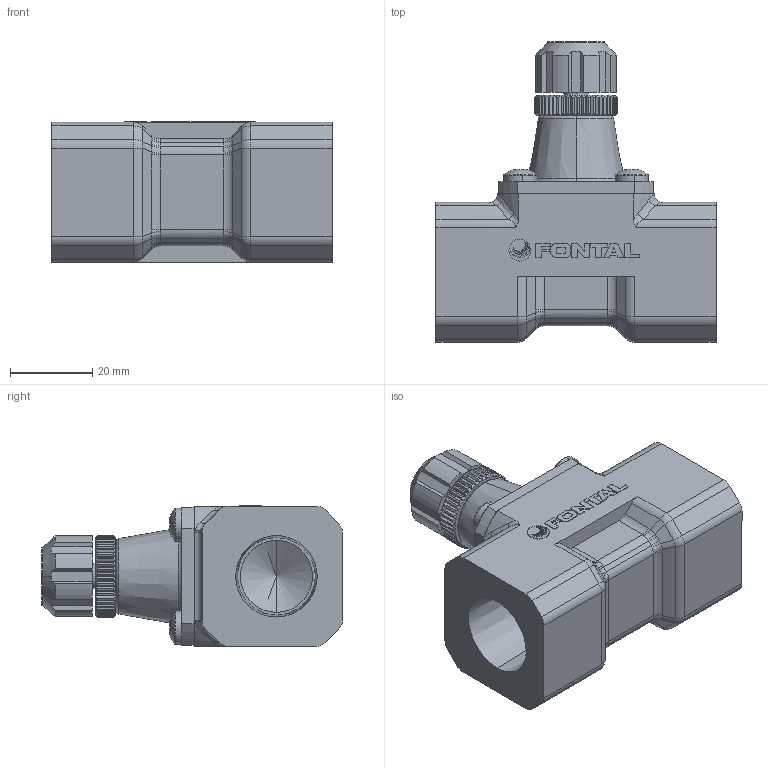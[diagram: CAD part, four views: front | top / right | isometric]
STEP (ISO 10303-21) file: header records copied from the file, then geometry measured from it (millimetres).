
FILE_DESCRIPTION (( 'STEP AP203' ), '1' );
FILE_NAME ('SP-15-4.STEP', '2016-01-14T20:21:00', ( '' ), ( '' ), 'SwSTEP 2.0', 'SolidWorks 2014', '' );
FILE_SCHEMA (( 'CONFIG_CONTROL_DESIGN' ));
Length unit declared in the file: millimetre
Products named in the file (8): SP-15-1-2; SPE-10-3; SP-15-2; ISO 7045 - M4 x 10 - Z; ZH-15-MARK; SPE-10-4; SP-15-4; SP-06-6
Assembly tree (10 placements, depth 2):
  SP-15-4
    SP-15-2
    ISO 7045 - M4 x 10 - Z  x4
    SPE-10-3
    SPE-10-4
    SP-06-6
    ZH-15-MARK
    SP-15-1-2
Bounding box: 68 x 73 x 34.15 mm (x, y, z)
Volume: 74485.6 mm3; surface area: 21339.4 mm2
Topology: 16 solids, 16 shells, 695 faces, 1654 edges, 984 vertices
Faces by surface type: plane 312, cylinder 167, cone 132, bspline 44, torus 24, sphere 16
Entity records: 18514 total; most frequent: CARTESIAN_POINT 4565, ORIENTED_EDGE 2784, DIRECTION 2660, EDGE_CURVE 1392, AXIS2_PLACEMENT_3D 1032, VERTEX_POINT 831, EDGE_LOOP 615, LINE 596
